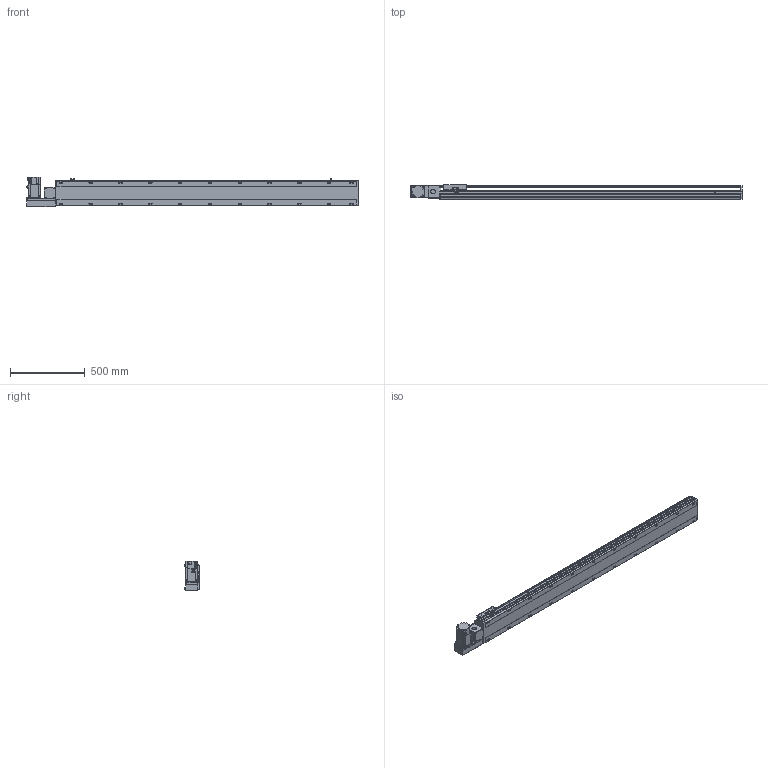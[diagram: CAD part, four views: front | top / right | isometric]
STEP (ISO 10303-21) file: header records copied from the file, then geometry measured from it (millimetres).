
FILE_DESCRIPTION( ( 'STEP AP214' ), '1' );
FILE_NAME( 'x:/temp/worker_4/temp/exporttempdir_2248_213_1T3Iv/format_0/PBS170-P40-S1750-L-T75-C1-N(0).stp', '2022-06-07T06:57:43', ( 'License CC BY-ND 4.0' ), ( 'CADENAS' ), ' ', 'PARTsolutions', ' ' );
FILE_SCHEMA( ( 'AUTOMOTIVE_DESIGN { 1 0 10303 214 1 1 1 1 }' ) );
Length unit declared in the file: millimetre
Products named in the file (7): PBS170-P40-S1750-L-T75-C1-N(0); _PBS170-S1750()_body; _PBS170T-L_motors; _T75-p1; _PBS170_sliser; _PBS170_plant; _PBS170_sensor
Assembly tree (8 placements, depth 2):
  PBS170-P40-S1750-L-T75-C1-N(0)
    _PBS170-S1750()_body
    _PBS170T-L_motors
    _T75-p1
    _PBS170_sliser
    _PBS170_plant
    _PBS170_sensor  x3
Bounding box: 2228 x 97 x 197.3 mm (x, y, z)
Volume: 16334979.5 mm3; surface area: 2084694 mm2
Topology: 8 solids, 8 shells, 1130 faces, 2995 edges, 1952 vertices
Faces by surface type: plane 705, cylinder 363, cone 52, sphere 8, torus 2
Full cylindrical faces by diameter (mm): 3.242 x4, 4 x2, 4.4 x4, 4.5 x6, 4.917 x4, 6 x9, 6.647 x30, 7 x2, 7.5 x4, 8 x8, 8.5 x22, 10 x4, 10.5 x22, 11 x2, 30 x2, 40 x1, 70 x1
Entity records: 41666 total; most frequent: CARTESIAN_POINT 6725, DIRECTION 5510, ORIENTED_EDGE 5208, EDGE_CURVE 2604, AXIS2_PLACEMENT_3D 1927, VERTEX_POINT 1802, LINE 1656, VECTOR 1656
